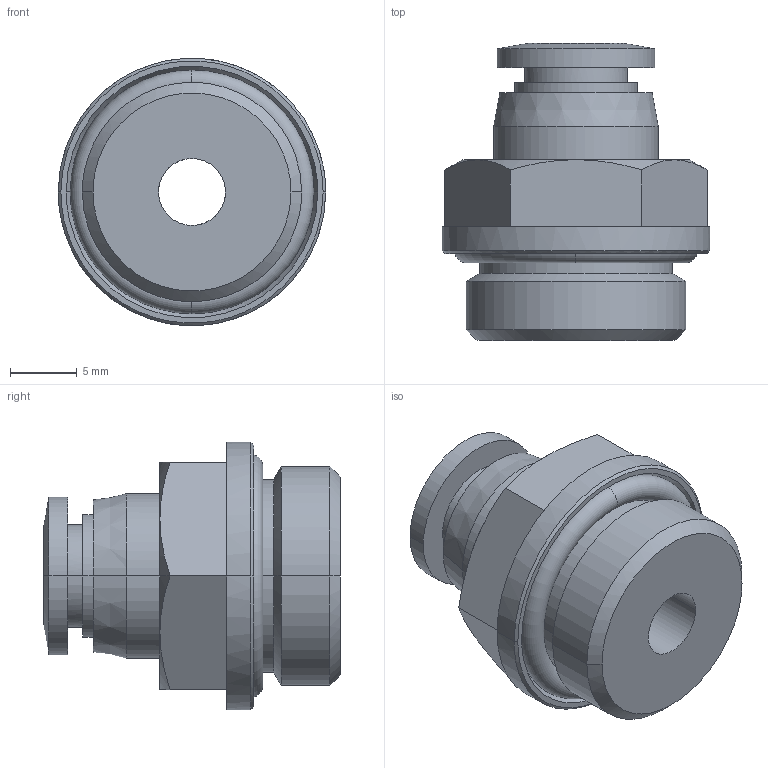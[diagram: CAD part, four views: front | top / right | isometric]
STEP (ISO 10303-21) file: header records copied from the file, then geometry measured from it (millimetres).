
FILE_DESCRIPTION (( 'STEP AP203' ), '1' );
FILE_NAME ('FH06-03.STEP', '2020-04-28T13:37:56', ( '' ), ( '' ), 'SwSTEP 2.0', 'SolidWorks 2019', '' );
FILE_SCHEMA (( 'CONFIG_CONTROL_DESIGN' ));
Length unit declared in the file: millimetre
Products named in the file (1): FH06-03
Bounding box: 20 x 22.2 x 20 mm (x, y, z)
Surface area: 2580 mm2 (no closed solid volume)
Topology: 0 solids, 4 shells, 62 faces, 138 edges, 87 vertices
Faces by surface type: cylinder 20, cone 19, plane 17, torus 6
Entity records: 3016 total; most frequent: CARTESIAN_POINT 1766, ORIENTED_EDGE 260, DIRECTION 171, EDGE_CURVE 138, B_SPLINE_CURVE_WITH_KNOTS 99, VERTEX_POINT 87, EDGE_LOOP 73, AXIS2_PLACEMENT_3D 69
